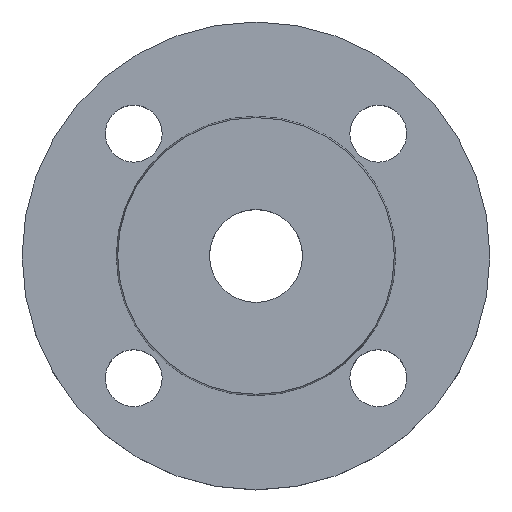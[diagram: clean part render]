
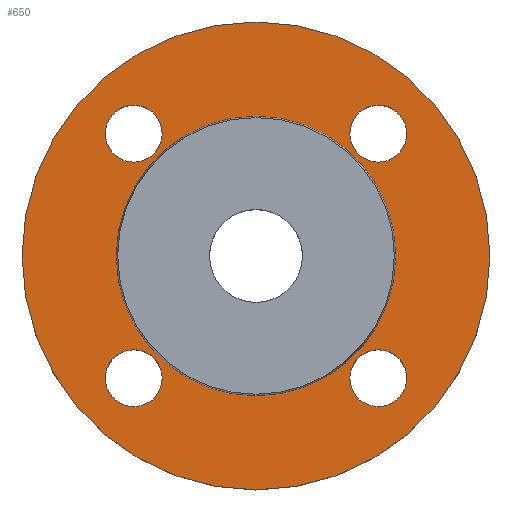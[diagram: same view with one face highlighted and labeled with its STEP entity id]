
A CAD part, top view. The second image highlights one B-rep face of the part: STEP entity #650.
In plain terms, the highlighted planar face has unit normal (0, 0, 1).
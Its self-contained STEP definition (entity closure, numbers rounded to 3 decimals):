
#2 = CIRCLE ( 'NONE', #15, 34.353 ) ;
#13 = AXIS2_PLACEMENT_3D ( 'NONE', #395, #161, #144 ) ;
#15 = AXIS2_PLACEMENT_3D ( 'NONE', #391, #392, #393 ) ;
#16 = AXIS2_PLACEMENT_3D ( 'NONE', #187, #150, #190 ) ;
#18 = AXIS2_PLACEMENT_3D ( 'NONE', #105, #102, #101 ) ;
#33 = EDGE_CURVE ( 'NONE', #282, #501, #229, .T. ) ;
#39 = EDGE_CURVE ( 'NONE', #277, #557, #123, .T. ) ;
#43 = CIRCLE ( 'NONE', #75, 57.5 ) ;
#46 = AXIS2_PLACEMENT_3D ( 'NONE', #595, #596, #597 ) ;
#51 = AXIS2_PLACEMENT_3D ( 'NONE', #357, #359, #360 ) ;
#69 = EDGE_CURVE ( 'NONE', #557, #277, #251, .T. ) ;
#70 = CIRCLE ( 'NONE', #51, 7. ) ;
#75 = AXIS2_PLACEMENT_3D ( 'NONE', #361, #362, #363 ) ;
#87 = CIRCLE ( 'NONE', #125, 7. ) ;
#101 = DIRECTION ( 'NONE',  ( 1., 0., 0. ) ) ;
#102 = DIRECTION ( 'NONE',  ( 0., 0., 1. ) ) ;
#105 = CARTESIAN_POINT ( 'NONE',  ( 34.353, 0., -2. ) ) ;
#106 = PLANE ( 'NONE',  #18 ) ;
#107 = FACE_OUTER_BOUND ( 'NONE', #564, .T. ) ;
#108 = FACE_BOUND ( 'NONE', #565, .T. ) ;
#109 = FACE_BOUND ( 'NONE', #575, .T. ) ;
#110 = FACE_BOUND ( 'NONE', #560, .T. ) ;
#111 = FACE_BOUND ( 'NONE', #553, .T. ) ;
#113 = FACE_BOUND ( 'NONE', #562, .T. ) ;
#123 = CIRCLE ( 'NONE', #127, 7. ) ;
#125 = AXIS2_PLACEMENT_3D ( 'NONE', #343, #344, #345 ) ;
#127 = AXIS2_PLACEMENT_3D ( 'NONE', #606, #607, #608 ) ;
#144 = DIRECTION ( 'NONE',  ( 1., 0., 0. ) ) ;
#150 = DIRECTION ( 'NONE',  ( 0., 0., -1. ) ) ;
#154 = CARTESIAN_POINT ( 'NONE',  ( 37.052, 30.052, -2. ) ) ;
#161 = DIRECTION ( 'NONE',  ( 0., 0., -1. ) ) ;
#167 = CARTESIAN_POINT ( 'NONE',  ( -57.5, 0., -2. ) ) ;
#187 = CARTESIAN_POINT ( 'NONE',  ( -30.052, -30.052, -2. ) ) ;
#190 = DIRECTION ( 'NONE',  ( 1., 0., 0. ) ) ;
#192 = CARTESIAN_POINT ( 'NONE',  ( -37.052, 30.052, -2. ) ) ;
#201 = CARTESIAN_POINT ( 'NONE',  ( -23.052, 30.052, -2. ) ) ;
#222 = EDGE_CURVE ( 'NONE', #576, #297, #267, .T. ) ;
#229 = CIRCLE ( 'NONE', #46, 57.5 ) ;
#236 = CIRCLE ( 'NONE', #16, 7. ) ;
#245 = AXIS2_PLACEMENT_3D ( 'NONE', #711, #712, #713 ) ;
#248 = CIRCLE ( 'NONE', #249, 7. ) ;
#249 = AXIS2_PLACEMENT_3D ( 'NONE', #330, #333, #334 ) ;
#251 = CIRCLE ( 'NONE', #292, 7. ) ;
#256 = CIRCLE ( 'NONE', #13, 7. ) ;
#260 = CIRCLE ( 'NONE', #642, 7. ) ;
#267 = CIRCLE ( 'NONE', #245, 34.353 ) ;
#273 = ORIENTED_EDGE ( 'NONE', *, *, #222, .T. ) ;
#274 = ORIENTED_EDGE ( 'NONE', *, *, #33, .F. ) ;
#276 = ORIENTED_EDGE ( 'NONE', *, *, #328, .F. ) ;
#277 = VERTEX_POINT ( 'NONE', #307 ) ;
#282 = VERTEX_POINT ( 'NONE', #316 ) ;
#292 = AXIS2_PLACEMENT_3D ( 'NONE', #632, #633, #634 ) ;
#295 = EDGE_CURVE ( 'NONE', #310, #568, #248, .T. ) ;
#297 = VERTEX_POINT ( 'NONE', #335 ) ;
#307 = CARTESIAN_POINT ( 'NONE',  ( 23.052, 30.052, -2. ) ) ;
#310 = VERTEX_POINT ( 'NONE', #337 ) ;
#316 = CARTESIAN_POINT ( 'NONE',  ( 57.5, 0., -2. ) ) ;
#317 = EDGE_CURVE ( 'NONE', #569, #372, #87, .T. ) ;
#327 = EDGE_CURVE ( 'NONE', #372, #569, #70, .T. ) ;
#328 = EDGE_CURVE ( 'NONE', #501, #282, #43, .T. ) ;
#330 = CARTESIAN_POINT ( 'NONE',  ( -30.052, -30.052, -2. ) ) ;
#333 = DIRECTION ( 'NONE',  ( 0., 0., -1. ) ) ;
#334 = DIRECTION ( 'NONE',  ( 1., 0., 0. ) ) ;
#335 = CARTESIAN_POINT ( 'NONE',  ( -34.353, 0., -2. ) ) ;
#337 = CARTESIAN_POINT ( 'NONE',  ( -23.052, -30.052, -2. ) ) ;
#338 = EDGE_CURVE ( 'NONE', #506, #579, #260, .T. ) ;
#343 = CARTESIAN_POINT ( 'NONE',  ( 30.052, -30.052, -2. ) ) ;
#344 = DIRECTION ( 'NONE',  ( 0., 0., -1. ) ) ;
#345 = DIRECTION ( 'NONE',  ( 1., 0., 0. ) ) ;
#357 = CARTESIAN_POINT ( 'NONE',  ( 30.052, -30.052, -2. ) ) ;
#359 = DIRECTION ( 'NONE',  ( 0., 0., -1. ) ) ;
#360 = DIRECTION ( 'NONE',  ( 1., 0., 0. ) ) ;
#361 = CARTESIAN_POINT ( 'NONE',  ( 0., 0., -2. ) ) ;
#362 = DIRECTION ( 'NONE',  ( 0., 0., -1. ) ) ;
#363 = DIRECTION ( 'NONE',  ( -1., 0., 0. ) ) ;
#369 = CARTESIAN_POINT ( 'NONE',  ( -30.052, 30.052, -2. ) ) ;
#370 = DIRECTION ( 'NONE',  ( 0., 0., -1. ) ) ;
#371 = DIRECTION ( 'NONE',  ( 1., 0., 0. ) ) ;
#372 = VERTEX_POINT ( 'NONE', #379 ) ;
#379 = CARTESIAN_POINT ( 'NONE',  ( 23.052, -30.052, -2. ) ) ;
#391 = CARTESIAN_POINT ( 'NONE',  ( 0., 0., -2. ) ) ;
#392 = DIRECTION ( 'NONE',  ( 0., 0., -1. ) ) ;
#393 = DIRECTION ( 'NONE',  ( -1., 0., 0. ) ) ;
#395 = CARTESIAN_POINT ( 'NONE',  ( -30.052, 30.052, -2. ) ) ;
#408 = EDGE_CURVE ( 'NONE', #297, #576, #2, .T. ) ;
#409 = CARTESIAN_POINT ( 'NONE',  ( -37.052, -30.052, -2. ) ) ;
#412 = CARTESIAN_POINT ( 'NONE',  ( 34.353, 0., -2. ) ) ;
#413 = CARTESIAN_POINT ( 'NONE',  ( 37.052, -30.052, -2. ) ) ;
#477 = ORIENTED_EDGE ( 'NONE', *, *, #317, .T. ) ;
#478 = ORIENTED_EDGE ( 'NONE', *, *, #327, .T. ) ;
#479 = ORIENTED_EDGE ( 'NONE', *, *, #295, .T. ) ;
#481 = ORIENTED_EDGE ( 'NONE', *, *, #482, .T. ) ;
#482 = EDGE_CURVE ( 'NONE', #568, #310, #236, .T. ) ;
#483 = ORIENTED_EDGE ( 'NONE', *, *, #546, .T. ) ;
#484 = ORIENTED_EDGE ( 'NONE', *, *, #338, .T. ) ;
#486 = ORIENTED_EDGE ( 'NONE', *, *, #69, .T. ) ;
#488 = ORIENTED_EDGE ( 'NONE', *, *, #39, .T. ) ;
#490 = ORIENTED_EDGE ( 'NONE', *, *, #408, .T. ) ;
#501 = VERTEX_POINT ( 'NONE', #167 ) ;
#506 = VERTEX_POINT ( 'NONE', #192 ) ;
#546 = EDGE_CURVE ( 'NONE', #579, #506, #256, .T. ) ;
#553 = EDGE_LOOP ( 'NONE', ( #479, #481 ) ) ;
#557 = VERTEX_POINT ( 'NONE', #154 ) ;
#560 = EDGE_LOOP ( 'NONE', ( #483, #484 ) ) ;
#562 = EDGE_LOOP ( 'NONE', ( #477, #478 ) ) ;
#564 = EDGE_LOOP ( 'NONE', ( #274, #276 ) ) ;
#565 = EDGE_LOOP ( 'NONE', ( #490, #273 ) ) ;
#568 = VERTEX_POINT ( 'NONE', #409 ) ;
#569 = VERTEX_POINT ( 'NONE', #413 ) ;
#575 = EDGE_LOOP ( 'NONE', ( #486, #488 ) ) ;
#576 = VERTEX_POINT ( 'NONE', #412 ) ;
#579 = VERTEX_POINT ( 'NONE', #201 ) ;
#595 = CARTESIAN_POINT ( 'NONE',  ( 0., 0., -2. ) ) ;
#596 = DIRECTION ( 'NONE',  ( 0., 0., -1. ) ) ;
#597 = DIRECTION ( 'NONE',  ( -1., 0., 0. ) ) ;
#606 = CARTESIAN_POINT ( 'NONE',  ( 30.052, 30.052, -2. ) ) ;
#607 = DIRECTION ( 'NONE',  ( 0., 0., -1. ) ) ;
#608 = DIRECTION ( 'NONE',  ( 1., 0., 0. ) ) ;
#632 = CARTESIAN_POINT ( 'NONE',  ( 30.052, 30.052, -2. ) ) ;
#633 = DIRECTION ( 'NONE',  ( 0., 0., -1. ) ) ;
#634 = DIRECTION ( 'NONE',  ( 1., 0., 0. ) ) ;
#642 = AXIS2_PLACEMENT_3D ( 'NONE', #369, #370, #371 ) ;
#650 = ADVANCED_FACE ( 'NONE', ( #113, #111, #110, #109, #108, #107 ), #106, .T. ) ;
#711 = CARTESIAN_POINT ( 'NONE',  ( 0., 0., -2. ) ) ;
#712 = DIRECTION ( 'NONE',  ( 0., 0., -1. ) ) ;
#713 = DIRECTION ( 'NONE',  ( -1., 0., 0. ) ) ;
